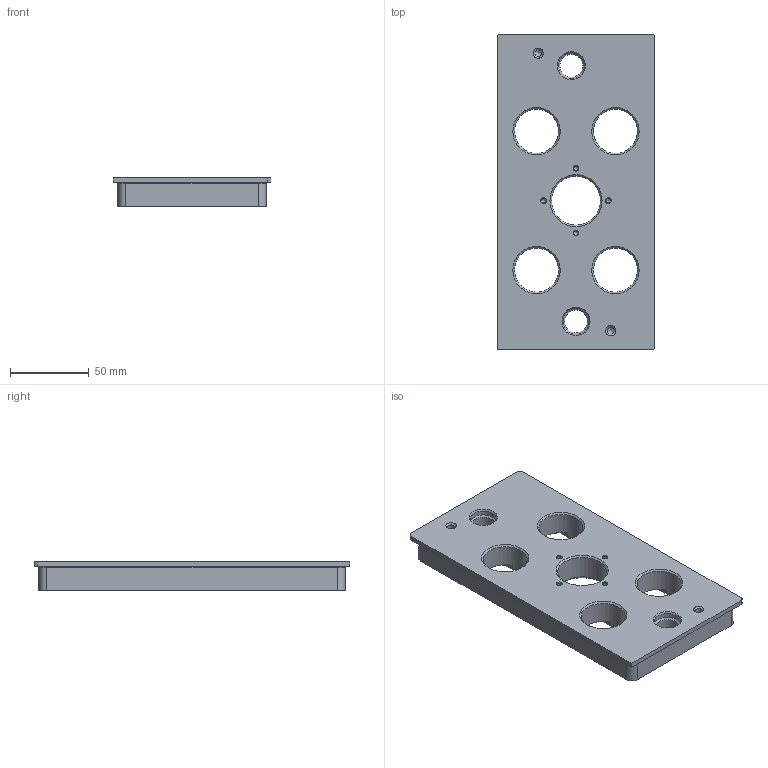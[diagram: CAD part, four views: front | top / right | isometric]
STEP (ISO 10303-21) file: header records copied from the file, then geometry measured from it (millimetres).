
FILE_DESCRIPTION(/* description */ (''),/* implementation_level */ '2;1');
FILE_NAME(/* name */ '35Д.91.0005_00-Крышка.stp',/* time_stamp */ '2025-01-30T11:50:59+03:00',/* author */ (''),/* organization */ (''),/* preprocessor_version */ 'ST-DEVELOPER v16.7',/* originating_system */ 'SIEMENS PLM Software NX 12.0',/* authorisation */ '');
FILE_SCHEMA (('AUTOMOTIVE_DESIGN { 1 0 10303 214 3 1 1 1 }'));
Length unit declared in the file: millimetre
Products named in the file (1): tete3F644A83w8ig
Bounding box: 100 x 200 x 18 mm (x, y, z)
Volume: 184387.2 mm3; surface area: 69075.6 mm2
Topology: 1 solids, 1 shells, 358 faces, 883 edges, 522 vertices
Faces by surface type: cylinder 163, torus 82, plane 73, cone 24, sphere 16
Full cylindrical faces by diameter (mm): 2.7 x4, 4.5 x2, 14.5 x2, 16.5 x2, 22 x1, 28 x4, 31 x1
Entity records: 10391 total; most frequent: DIRECTION 1981, CARTESIAN_POINT 1932, ORIENTED_EDGE 1606, AXIS2_PLACEMENT_3D 835, EDGE_CURVE 803, VERTEX_POINT 506, CIRCLE 476, EDGE_LOOP 425
